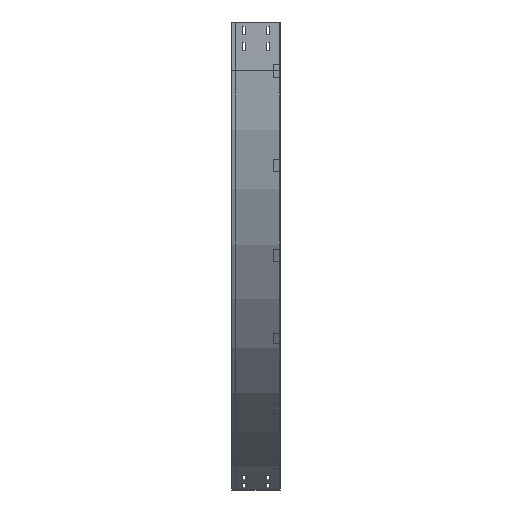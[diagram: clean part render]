
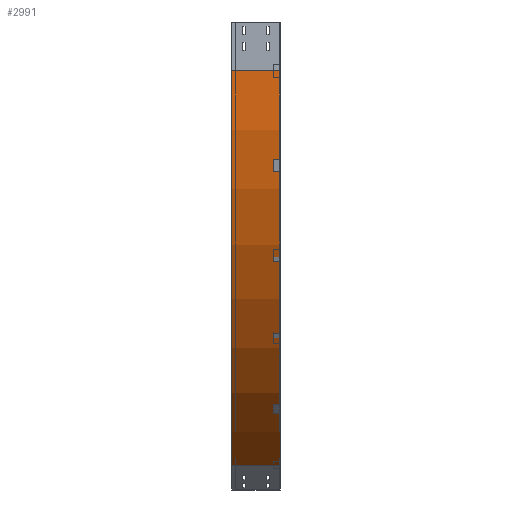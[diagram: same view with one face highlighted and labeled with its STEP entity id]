
A CAD part, left-side view. The second image highlights one B-rep face of the part: STEP entity #2991.
In plain terms, the highlighted cylindrical face has radius 1400 mm (diameter 2800 mm), a partial arc.
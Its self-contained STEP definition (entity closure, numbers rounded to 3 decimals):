
#7 = CARTESIAN_POINT ( 'NONE',  ( 1400., 0., -150. ) ) ;
#11 = DIRECTION ( 'NONE',  ( 0., -1., 0. ) ) ;
#19 = CARTESIAN_POINT ( 'NONE',  ( 0., 0., -150. ) ) ;
#99 = CARTESIAN_POINT ( 'NONE',  ( 700., 0., -1362.436 ) ) ;
#113 = ORIENTED_EDGE ( 'NONE', *, *, #395, .F. ) ;
#330 = DIRECTION ( 'NONE',  ( 0., -1., 0. ) ) ;
#360 = ORIENTED_EDGE ( 'NONE', *, *, #811, .T. ) ;
#362 = VERTEX_POINT ( 'NONE', #1122 ) ;
#395 = EDGE_CURVE ( 'NONE', #362, #2207, #1386, .T. ) ;
#538 = DIRECTION ( 'NONE',  ( -1., 0., 0. ) ) ;
#581 = CYLINDRICAL_SURFACE ( 'NONE', #916, 1400. ) ;
#616 = LINE ( 'NONE', #19, #3249 ) ;
#767 = LINE ( 'NONE', #99, #2884 ) ;
#811 = EDGE_CURVE ( 'NONE', #1064, #3494, #2080, .T. ) ;
#856 = CARTESIAN_POINT ( 'NONE',  ( 0., 150., -150. ) ) ;
#916 = AXIS2_PLACEMENT_3D ( 'NONE', #7, #330, #1189 ) ;
#1005 = ORIENTED_EDGE ( 'NONE', *, *, #2396, .F. ) ;
#1064 = VERTEX_POINT ( 'NONE', #856 ) ;
#1079 = AXIS2_PLACEMENT_3D ( 'NONE', #3202, #3519, #538 ) ;
#1122 = CARTESIAN_POINT ( 'NONE',  ( 0., 0., -150. ) ) ;
#1189 = DIRECTION ( 'NONE',  ( 0., 0., -1. ) ) ;
#1386 = CIRCLE ( 'NONE', #1079, 1400. ) ;
#1583 = DIRECTION ( 'NONE',  ( 0., -1., 0. ) ) ;
#1684 = CARTESIAN_POINT ( 'NONE',  ( 700., 0., -1362.436 ) ) ;
#1742 = EDGE_CURVE ( 'NONE', #3494, #2207, #767, .T. ) ;
#2080 = CIRCLE ( 'NONE', #2338, 1400. ) ;
#2207 = VERTEX_POINT ( 'NONE', #1684 ) ;
#2338 = AXIS2_PLACEMENT_3D ( 'NONE', #2683, #11, #2978 ) ;
#2396 = EDGE_CURVE ( 'NONE', #1064, #362, #616, .T. ) ;
#2683 = CARTESIAN_POINT ( 'NONE',  ( 1400., 150., -150. ) ) ;
#2732 = EDGE_LOOP ( 'NONE', ( #113, #1005, #360, #3581 ) ) ;
#2884 = VECTOR ( 'NONE', #1583, 1000. ) ;
#2978 = DIRECTION ( 'NONE',  ( -1., 0., 0. ) ) ;
#2991 = ADVANCED_FACE ( 'NONE', ( #3566 ), #581, .T. ) ;
#3007 = DIRECTION ( 'NONE',  ( 0., -1., 0. ) ) ;
#3202 = CARTESIAN_POINT ( 'NONE',  ( 1400., 0., -150. ) ) ;
#3249 = VECTOR ( 'NONE', #3007, 1000. ) ;
#3494 = VERTEX_POINT ( 'NONE', #3718 ) ;
#3519 = DIRECTION ( 'NONE',  ( 0., -1., 0. ) ) ;
#3566 = FACE_OUTER_BOUND ( 'NONE', #2732, .T. ) ;
#3581 = ORIENTED_EDGE ( 'NONE', *, *, #1742, .T. ) ;
#3718 = CARTESIAN_POINT ( 'NONE',  ( 700., 150., -1362.436 ) ) ;
